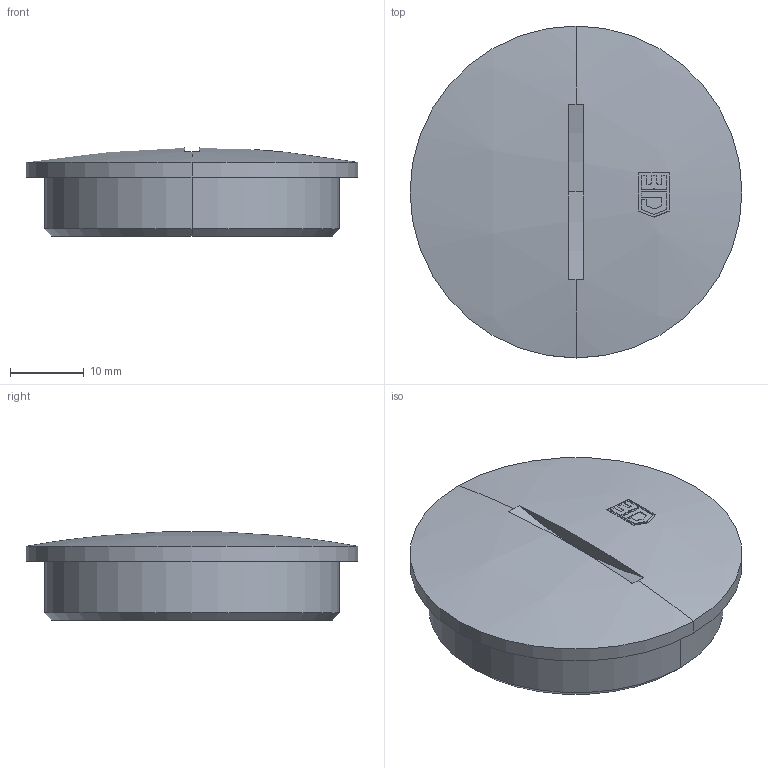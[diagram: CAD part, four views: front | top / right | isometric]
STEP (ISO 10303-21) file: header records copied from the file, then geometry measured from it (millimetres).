
FILE_DESCRIPTION (( 'STEP AP203' ), '1' );
FILE_NAME ('10.4015.STEP', '2005-10-06T12:35:07', ( ' ' ), ( '' ), 'SwSTEP 2.0', 'SolidWorks 2005143', '' );
FILE_SCHEMA (( 'CONFIG_CONTROL_DESIGN' ));
Length unit declared in the file: millimetre
Products named in the file (1): 10.4015
Bounding box: 45 x 45 x 11.93 mm (x, y, z)
Volume: 7880.7 mm3; surface area: 5257 mm2
Topology: 1 solids, 1 shells, 56 faces, 141 edges, 92 vertices
Faces by surface type: plane 39, cylinder 8, sphere 5, cone 4
Entity records: 1818 total; most frequent: DIRECTION 331, CARTESIAN_POINT 328, ORIENTED_EDGE 282, AXIS2_PLACEMENT_3D 143, EDGE_CURVE 141, VERTEX_POINT 92, CIRCLE 86, EDGE_LOOP 61
